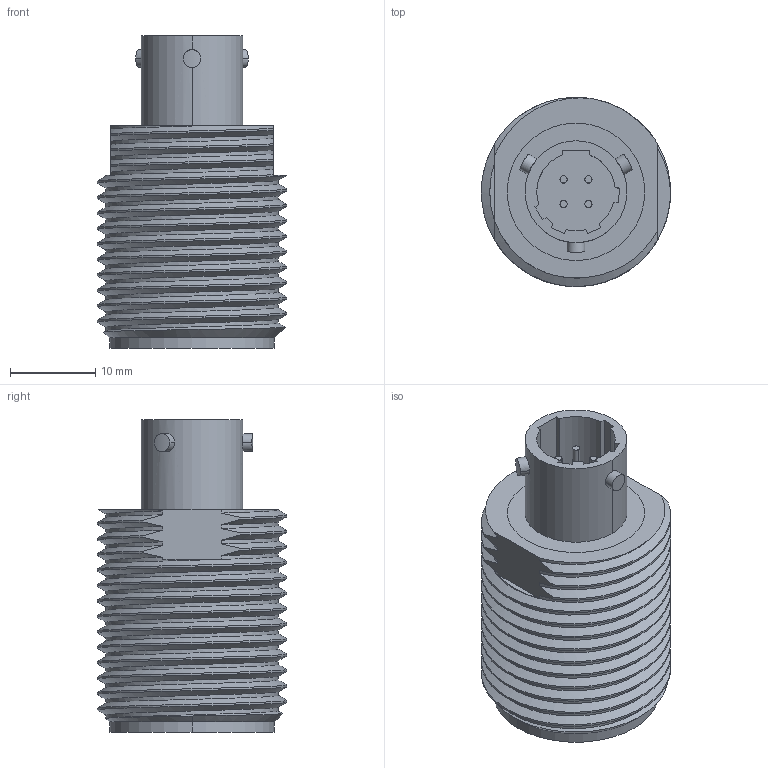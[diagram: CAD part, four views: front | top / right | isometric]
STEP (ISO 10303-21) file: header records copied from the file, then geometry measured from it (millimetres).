
FILE_DESCRIPTION (( 'STEP AP203' ), '1' );
FILE_NAME ('6C.STEP', '2010-03-05T18:53:44', ( 'tom edwards' ), ( 'Tom J. Edwards' ), 'SwSTEP 2.0', 'SolidWorks 2008', '' );
FILE_SCHEMA (( 'CONFIG_CONTROL_DESIGN' ));
Length unit declared in the file: millimetre
Products named in the file (3): DTIH-8-4PN; 6C_Thread Runout; 6C
Assembly tree (2 placements, depth 2):
  6C
    6C_Thread Runout
    DTIH-8-4PN
Bounding box: 22.23 x 22.22 x 36.73 mm (x, y, z)
Volume: 10008.7 mm3; surface area: 4748.2 mm2
Topology: 2 solids, 2 shells, 112 faces, 294 edges, 196 vertices
Faces by surface type: cylinder 51, plane 31, bspline 28, cone 2
Entity records: 22829 total; most frequent: CARTESIAN_POINT 20164, ORIENTED_EDGE 588, DIRECTION 384, EDGE_CURVE 294, VERTEX_POINT 196, AXIS2_PLACEMENT_3D 136, EDGE_LOOP 122, ADVANCED_FACE 112
